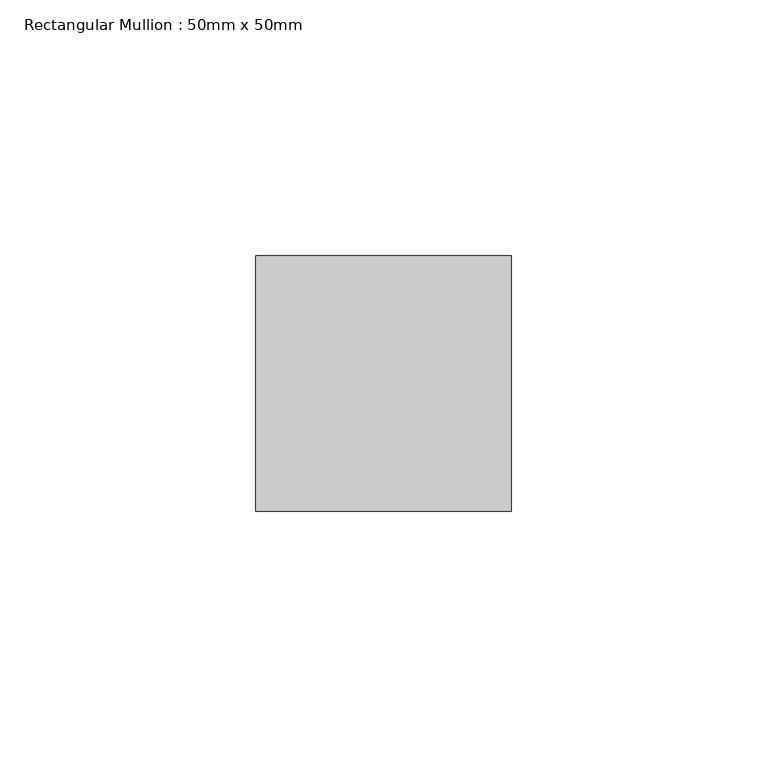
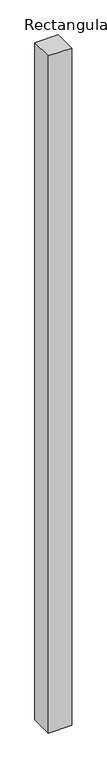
"""IFC4 building model written with IfcOpenShell, lengths in millimetres: member geometry, Rectangular Mullion : 50mm x 50mm."""

import ifcopenshell
import ifcopenshell.guid

model = None  # the IFC model being written
_history = None  # IfcOwnerHistory: only IFC2X3 demands one
_inside = {}  # id of a spatial element -> (the spatial element, [elements in it])
_under = {}  # id of a project, library or spatial element -> (it, [spatial elements below it])
_declared = {}  # id of a project -> (the project, [libraries it declares])
_typed = {}  # id of a type object -> (the type object, [elements of that type])
_made_of = {}  # id of a material, layer set ... -> (it, [elements and type objects made of it])


def new_model(schema):
    """Start an empty IFC model of exactly this schema.

    Asked for "IFC4X3", IfcOpenShell would pick the latest addendum, in which some entities
    have other attributes; the version numbers below select the first issue.
    IFC2X3 requires an IfcOwnerHistory on every rooted entity: one is made here for all.
    """
    global model, _history
    if schema == "IFC4X3":
        model = ifcopenshell.file(schema_version=(4, 3, 0, 0))
    else:
        model = ifcopenshell.file(schema=schema)
    _inside.clear()
    _under.clear()
    _declared.clear()
    _typed.clear()
    _made_of.clear()
    _history = None
    if model.schema == "IFC2X3":
        org = make("IfcOrganization", Name="unknown")
        user = make(
            "IfcPersonAndOrganization",
            ThePerson=make("IfcPerson", FamilyName="unknown"),
            TheOrganization=org,
        )
        app = make(
            "IfcApplication",
            ApplicationDeveloper=org,
            Version="unknown",
            ApplicationFullName="unknown",
            ApplicationIdentifier="unknown",
        )
        _history = make(
            "IfcOwnerHistory",
            OwningUser=user,
            OwningApplication=app,
            ChangeAction="ADDED",
            CreationDate=0,
        )
    return model


def make(cls, **values):
    """One entity of the class cls with the attributes given. An attribute that is None is left unset."""
    return model.create_entity(
        cls, **{name: value for name, value in values.items() if value is not None}
    )


def rooted(cls, **values):
    """An entity with a GlobalId (a new one), such as an element, a storey or a relation."""
    return make(cls, GlobalId=ifcopenshell.guid.new(), OwnerHistory=_history, **values)


def si_unit(unit_type, name, prefix=None):
    """IfcSIUnit, for example si_unit("LENGTHUNIT", "METRE", prefix="MILLI")."""
    return make("IfcSIUnit", UnitType=unit_type, Prefix=prefix, Name=name)


def assignment(units):
    """IfcUnitAssignment: the units of a project."""
    return None if units is None else make("IfcUnitAssignment", Units=units)


def point(xyz):
    """IfcCartesianPoint."""
    return None if xyz is None else make("IfcCartesianPoint", Coordinates=xyz)


def direction(xyz):
    """IfcDirection."""
    return None if xyz is None else make("IfcDirection", DirectionRatios=xyz)


def frame(location, z_axis=None, x_axis=None):
    """IfcAxis2Placement3D, a coordinate frame: its origin and axes. An axis left out is left unset."""
    return make(
        "IfcAxis2Placement3D",
        Location=point(location),
        Axis=direction(z_axis),
        RefDirection=direction(x_axis),
    )


def origin():
    """The frame at (0, 0, 0) with its axes left unset."""
    return frame((0.0, 0.0, 0.0))


def place(relative_to, where):
    """IfcLocalPlacement: puts the frame where relative to a parent placement (None: the world)."""
    return make(
        "IfcLocalPlacement", PlacementRelTo=relative_to, RelativePlacement=where
    )


def context(
    kind, dimensions, precision=None, world=None, true_north=None, identifier=None
):
    """IfcGeometricRepresentationContext, for example the 3D "Model" context."""
    return make(
        "IfcGeometricRepresentationContext",
        ContextIdentifier=identifier,
        ContextType=kind,
        CoordinateSpaceDimension=dimensions,
        Precision=precision,
        WorldCoordinateSystem=world,
        TrueNorth=true_north,
    )


def project(units=None, contexts=None):
    """IfcProject with its units and contexts."""
    return rooted(
        "IfcProject",
        Name="project",
        RepresentationContexts=contexts,
        UnitsInContext=assignment(units),
    )


def spatial(cls, under=None, at=None, **own):
    """A site, building, storey or space (cls), placed at a placement, below another one or the project."""
    s = rooted(cls, ObjectPlacement=at, **own)
    if under is not None:
        _under.setdefault(under.id(), (under, []))[1].append(s)
    return s


def polyline(points):
    """IfcPolyline through the points."""
    return make("IfcPolyline", Points=[point(p) for p in points])


def outline(outer, holes=None, kind="AREA"):
    """IfcArbitraryClosedProfileDef: a profile drawn as a closed curve; with holes, ...WithVoids."""
    if holes is None:
        return make("IfcArbitraryClosedProfileDef", ProfileType=kind, OuterCurve=outer)
    return make(
        "IfcArbitraryProfileDefWithVoids",
        ProfileType=kind,
        OuterCurve=outer,
        InnerCurves=holes,
    )


def extrude(swept, where, along, depth):
    """IfcExtrudedAreaSolid: the profile swept, set in the frame where, extruded along a direction by depth."""
    return make(
        "IfcExtrudedAreaSolid",
        SweptArea=swept,
        Position=where,
        ExtrudedDirection=direction(along),
        Depth=depth,
    )


def shape(context_of_items, identifier, shape_type, items):
    """IfcShapeRepresentation: the items that make up one representation, for example the "Body"."""
    return make(
        "IfcShapeRepresentation",
        ContextOfItems=context_of_items,
        RepresentationIdentifier=identifier,
        RepresentationType=shape_type,
        Items=items,
    )


def source(mapping_origin, context_of_items, identifier, shape_type, items):
    """IfcRepresentationMap: a shape defined once, which mapped items show again and again."""
    return make(
        "IfcRepresentationMap",
        MappingOrigin=mapping_origin,
        MappedRepresentation=shape(context_of_items, identifier, shape_type, items),
    )


def transform(
    local_origin,
    x_axis=None,
    y_axis=None,
    z_axis=None,
    scale=None,
    scale2=None,
    scale3=None,
    uniform=True,
):
    """IfcCartesianTransformationOperator3D, or its non-uniform kind. x_axis, y_axis, z_axis: its Axis1, 2, 3."""
    if uniform:
        return make(
            "IfcCartesianTransformationOperator3D",
            Axis1=direction(x_axis),
            Axis2=direction(y_axis),
            LocalOrigin=point(local_origin),
            Scale=scale,
            Axis3=direction(z_axis),
        )
    return make(
        "IfcCartesianTransformationOperator3DnonUniform",
        Axis1=direction(x_axis),
        Axis2=direction(y_axis),
        LocalOrigin=point(local_origin),
        Scale=scale,
        Axis3=direction(z_axis),
        Scale2=scale2,
        Scale3=scale3,
    )


def mapped(mapping_source, mapping_target):
    """IfcMappedItem: shows the shape of a source again, moved by a transform."""
    return make(
        "IfcMappedItem", MappingSource=mapping_source, MappingTarget=mapping_target
    )


def made_of(thing, what):
    """Note that an element or type object is made of a material, layer set ...; save() writes the relation."""
    if what is not None:
        _made_of.setdefault(what.id(), (what, []))[1].append(thing)
    return thing


def element(
    cls,
    number,
    at=None,
    inside=None,
    cuts=None,
    type_object=None,
    material=None,
    context=None,
    identifier="Body",
    shape_type=None,
    held_by="IfcProductDefinitionShape",
    body=None,
    shapes=None,
    **own,
):
    """One element of the class cls, such as IfcWall. Its Tag is "e" and its number.

    at: its placement. inside: the storey or other place that contains it. cuts: it is an
    opening in that element (IfcRelVoidsElement). A single representation is given by context,
    identifier, shape_type and body (its items); several are given by shapes. held_by: the class
    of the entity that holds the representations. save() writes the other relations.
    """
    e = rooted(cls, Tag="e%d" % number, ObjectPlacement=at, **own)
    if body is not None:
        shapes = [shape(context, identifier, shape_type, body)]
    if shapes is not None:
        e.Representation = make(held_by, Representations=shapes)
    if inside is not None:
        _inside.setdefault(inside.id(), (inside, []))[1].append(e)
    if cuts is not None:
        rooted(
            "IfcRelVoidsElement", RelatingBuildingElement=cuts, RelatedOpeningElement=e
        )
    if type_object is not None:
        _typed.setdefault(type_object.id(), (type_object, []))[1].append(e)
    return made_of(e, material)


def aggregate(whole, parts):
    """IfcRelAggregates: a whole, such as a stair, and the parts it consists of."""
    return rooted("IfcRelAggregates", RelatingObject=whole, RelatedObjects=parts)


def save(model, path):
    """Write the relations noted so far, then the file.

    IfcRelAggregates (storeys below a building ...), IfcRelContainedInSpatialStructure (elements
    in a storey), IfcRelDefinesByType, IfcRelAssociatesMaterial and IfcRelDeclares: one each for
    every whole, place, type object, material and project.
    """
    for whole, parts in _under.values():
        aggregate(whole, parts)
    for where, things in _inside.values():
        rooted(
            "IfcRelContainedInSpatialStructure",
            RelatedElements=things,
            RelatingStructure=where,
        )
    for kind, things in _typed.values():
        rooted("IfcRelDefinesByType", RelatedObjects=things, RelatingType=kind)
    for what, things in _made_of.values():
        rooted("IfcRelAssociatesMaterial", RelatedObjects=things, RelatingMaterial=what)
    for by, libraries in _declared.values():
        rooted("IfcRelDeclares", RelatingContext=by, RelatedDefinitions=libraries)
    model.write(path)


def rectangular_mullion_50mm_x_50mm_7dbfba96(model_context):
    return source(origin(), model_context, "Body", "SweptSolid", [
        extrude(outline(polyline([(0.0, 25.0), (0.0, -25.0), (-50.0, -25.0), (-50.0, 25.0), (0.0, 25.0)])), frame((0.0, 0.0, -1536.9557741), z_axis=(0.0, 0.0, 1.0), x_axis=(1.0, 0.0, 0.0)), (0.0, 0.0, 1.0), 1536.9557741),
    ])


if __name__ == "__main__":
    model = new_model("IFC4")
    model_context = context("Model", 3, world=origin())
    ifc_project = project(units=[si_unit("LENGTHUNIT", "METRE", prefix="MILLI")], contexts=[model_context])
    site = spatial("IfcSite", under=ifc_project)
    building = spatial("IfcBuilding", under=site)
    placement = place(None, origin())
    rectangular_mullion_50mm_x_50mm_shape = rectangular_mullion_50mm_x_50mm_7dbfba96(model_context)
    element("IfcMember", 1, ObjectType="Rectangular Mullion : 50mm x 50mm", at=placement, inside=building, context=model_context, shape_type="MappedRepresentation", body=[
        mapped(rectangular_mullion_50mm_x_50mm_shape, transform((0.0, 0.0, 0.0), x_axis=(1.0, 0.0, 0.0), y_axis=(0.0, 1.0, 0.0), z_axis=(0.0, 0.0, 1.0))),
    ])
    save(model, "model.ifc")
